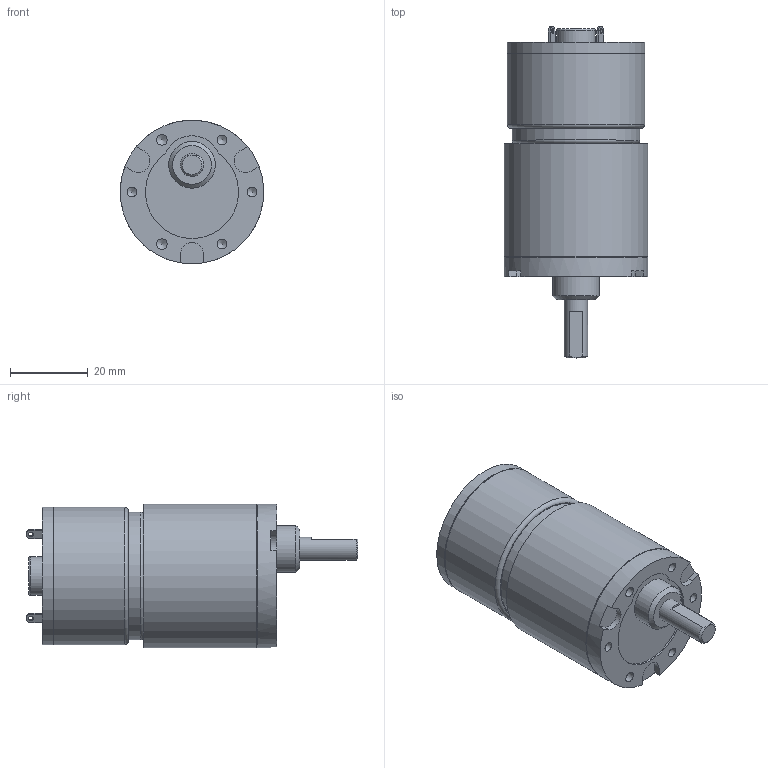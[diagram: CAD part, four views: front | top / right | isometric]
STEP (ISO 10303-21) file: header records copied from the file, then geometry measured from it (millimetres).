
FILE_DESCRIPTION((''),'2;1');
FILE_NAME('C:\Documents and Settings\SSEGAWA\デスクトップ\TP-3526A-KS-6.STP','2013-07-05T16:03:11',('SSEGAWA'),(''),'Autodesk Inventor 2010','Autodesk Inventor 2010','');
FILE_SCHEMA(('CONFIG_CONTROL_DESIGN'));
Length unit declared in the file: millimetre
Products named in the file (3): tp_3526abcj_ks_6; ks_6; tp_3526a,b,c,j
Assembly tree (2 placements, depth 2):
  tp_3526abcj_ks_6
    ks_6
    tp_3526a,b,c,j
Bounding box: 37 x 85.6 x 37 mm (x, y, z)
Volume: 63055.8 mm3; surface area: 12252.1 mm2
Topology: 3 solids, 3 shells, 82 faces, 188 edges, 125 vertices
Faces by surface type: plane 36, bspline 21, cylinder 20, torus 3, cone 2
Full cylindrical faces by diameter (mm): 2 x1, 4 x1, 6 x1, 10 x2, 12 x1, 33 x1, 35 x1, 35.4 x2, 36.6 x1, 37 x2
Entity records: 2313 total; most frequent: CARTESIAN_POINT 700, DIRECTION 329, ORIENTED_EDGE 250, AXIS2_PLACEMENT_3D 140, EDGE_LOOP 137, EDGE_CURVE 125, VERTEX_POINT 100, FACE_OUTER_BOUND 82
